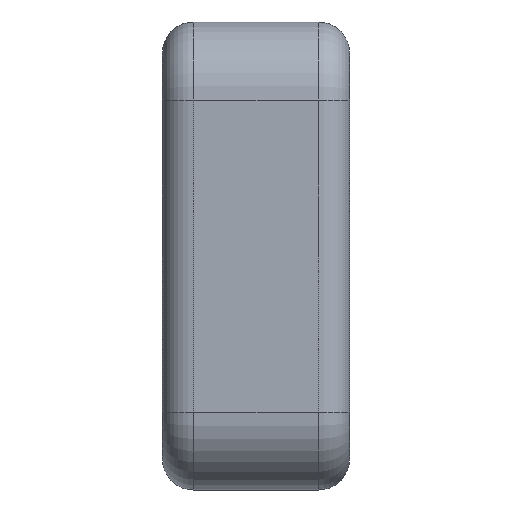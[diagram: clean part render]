
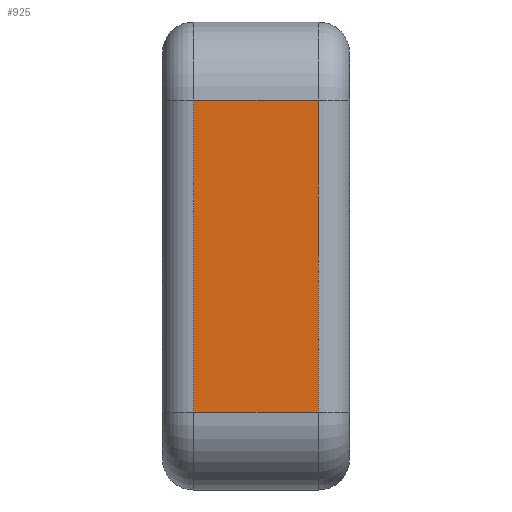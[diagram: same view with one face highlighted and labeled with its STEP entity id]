
A CAD part, left-side view. The second image highlights one B-rep face of the part: STEP entity #925.
In plain terms, the highlighted planar face has unit normal (-1, 0, 0).
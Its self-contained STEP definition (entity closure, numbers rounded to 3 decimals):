
#49 = EDGE_CURVE ( 'NONE', #632, #662, #735, .T. ) ;
#57 = PLANE ( 'NONE',  #345 ) ;
#83 = VERTEX_POINT ( 'NONE', #332 ) ;
#106 = VECTOR ( 'NONE', #803, 1000. ) ;
#132 = ORIENTED_EDGE ( 'NONE', *, *, #137, .T. ) ;
#134 = FACE_OUTER_BOUND ( 'NONE', #597, .T. ) ;
#137 = EDGE_CURVE ( 'NONE', #306, #83, #326, .T. ) ;
#179 = CARTESIAN_POINT ( 'NONE',  ( -65., 12., -10. ) ) ;
#212 = CARTESIAN_POINT ( 'NONE',  ( -65., 12., -10. ) ) ;
#215 = CARTESIAN_POINT ( 'NONE',  ( -65., 12., 10. ) ) ;
#248 = VECTOR ( 'NONE', #317, 1000. ) ;
#251 = CARTESIAN_POINT ( 'NONE',  ( -65., 10., 10. ) ) ;
#257 = CARTESIAN_POINT ( 'NONE',  ( -65., 2., 10. ) ) ;
#306 = VERTEX_POINT ( 'NONE', #719 ) ;
#317 = DIRECTION ( 'NONE',  ( 0., -1., 0. ) ) ;
#326 = LINE ( 'NONE', #179, #248 ) ;
#332 = CARTESIAN_POINT ( 'NONE',  ( -65., 2., -10. ) ) ;
#345 = AXIS2_PLACEMENT_3D ( 'NONE', #212, #948, #507 ) ;
#366 = ORIENTED_EDGE ( 'NONE', *, *, #894, .T. ) ;
#433 = CARTESIAN_POINT ( 'NONE',  ( -65., 2., -10. ) ) ;
#438 = VECTOR ( 'NONE', #591, 1000. ) ;
#485 = LINE ( 'NONE', #500, #532 ) ;
#500 = CARTESIAN_POINT ( 'NONE',  ( -65., 10., -10. ) ) ;
#507 = DIRECTION ( 'NONE',  ( 0., 0., -1. ) ) ;
#532 = VECTOR ( 'NONE', #579, 1000. ) ;
#578 = ORIENTED_EDGE ( 'NONE', *, *, #49, .F. ) ;
#579 = DIRECTION ( 'NONE',  ( 0., 0., -1. ) ) ;
#583 = ORIENTED_EDGE ( 'NONE', *, *, #677, .T. ) ;
#591 = DIRECTION ( 'NONE',  ( 0., 0., 1. ) ) ;
#597 = EDGE_LOOP ( 'NONE', ( #578, #583, #132, #366 ) ) ;
#632 = VERTEX_POINT ( 'NONE', #251 ) ;
#662 = VERTEX_POINT ( 'NONE', #257 ) ;
#677 = EDGE_CURVE ( 'NONE', #632, #306, #485, .T. ) ;
#719 = CARTESIAN_POINT ( 'NONE',  ( -65., 10., -10. ) ) ;
#735 = LINE ( 'NONE', #215, #106 ) ;
#744 = LINE ( 'NONE', #433, #438 ) ;
#803 = DIRECTION ( 'NONE',  ( 0., -1., 0. ) ) ;
#894 = EDGE_CURVE ( 'NONE', #83, #662, #744, .T. ) ;
#925 = ADVANCED_FACE ( 'NONE', ( #134 ), #57, .F. ) ;
#948 = DIRECTION ( 'NONE',  ( 1., 0., 0. ) ) ;
